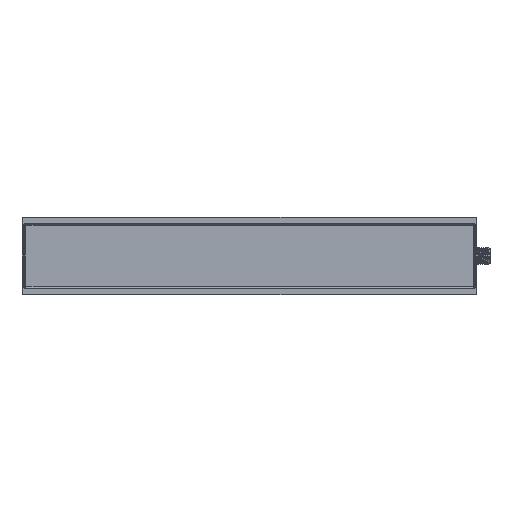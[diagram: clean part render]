
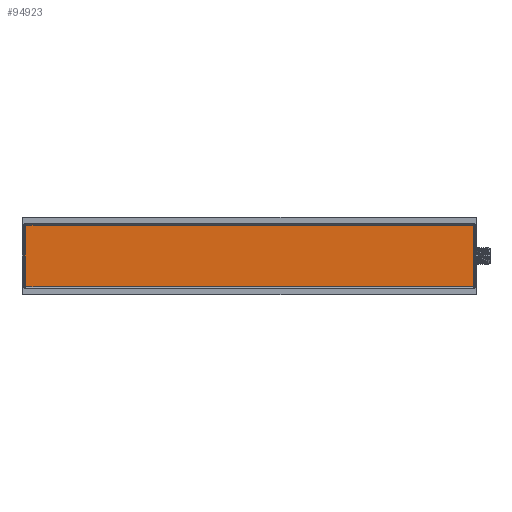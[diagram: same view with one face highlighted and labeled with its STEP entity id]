
A CAD part, top view. The second image highlights one B-rep face of the part: STEP entity #94923.
In plain terms, the highlighted planar face has unit normal (0, 0, 1).
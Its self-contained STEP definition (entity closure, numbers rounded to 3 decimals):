
#569 = VECTOR ( 'NONE', #50784, 1000. ) ;
#1560 = ORIENTED_EDGE ( 'NONE', *, *, #17315, .T. ) ;
#2771 = CARTESIAN_POINT ( 'NONE',  ( -150.155, 19.53, 0. ) ) ;
#3062 = CARTESIAN_POINT ( 'NONE',  ( -149.155, -20.53, 0. ) ) ;
#3372 = CIRCLE ( 'NONE', #79047, 1. ) ;
#4437 = ORIENTED_EDGE ( 'NONE', *, *, #15778, .T. ) ;
#4564 = VERTEX_POINT ( 'NONE', #30523 ) ;
#8193 = AXIS2_PLACEMENT_3D ( 'NONE', #16530, #31643, #33584 ) ;
#8801 = AXIS2_PLACEMENT_3D ( 'NONE', #36539, #44095, #21844 ) ;
#9100 = CARTESIAN_POINT ( 'NONE',  ( 149.155, 19.53, 0. ) ) ;
#9338 = VERTEX_POINT ( 'NONE', #10373 ) ;
#10373 = CARTESIAN_POINT ( 'NONE',  ( 149.155, -20.53, 0. ) ) ;
#11170 = VECTOR ( 'NONE', #13306, 1000. ) ;
#11429 = VECTOR ( 'NONE', #61216, 1000. ) ;
#13306 = DIRECTION ( 'NONE',  ( 0., 1., 0. ) ) ;
#13960 = CARTESIAN_POINT ( 'NONE',  ( 150.155, 19.53, 0. ) ) ;
#15778 = EDGE_CURVE ( 'NONE', #65472, #37655, #22859, .T. ) ;
#16087 = VERTEX_POINT ( 'NONE', #30411 ) ;
#16530 = CARTESIAN_POINT ( 'NONE',  ( -149.155, -19.53, 0. ) ) ;
#17265 = DIRECTION ( 'NONE',  ( 0., 0., -1. ) ) ;
#17315 = EDGE_CURVE ( 'NONE', #48006, #9338, #88898, .T. ) ;
#17514 = VECTOR ( 'NONE', #19834, 1000. ) ;
#19834 = DIRECTION ( 'NONE',  ( 1., 0., 0. ) ) ;
#21844 = DIRECTION ( 'NONE',  ( -1., 0., 0. ) ) ;
#22176 = CARTESIAN_POINT ( 'NONE',  ( -149.155, 19.53, 0. ) ) ;
#22859 = LINE ( 'NONE', #95272, #569 ) ;
#24542 = PLANE ( 'NONE',  #37304 ) ;
#29809 = CARTESIAN_POINT ( 'NONE',  ( -150.155, -19.53, 0. ) ) ;
#30411 = CARTESIAN_POINT ( 'NONE',  ( 149.155, 20.53, 0. ) ) ;
#30523 = CARTESIAN_POINT ( 'NONE',  ( 150.155, 19.53, 0. ) ) ;
#31643 = DIRECTION ( 'NONE',  ( 0., 0., 1. ) ) ;
#32445 = ORIENTED_EDGE ( 'NONE', *, *, #47706, .T. ) ;
#32496 = LINE ( 'NONE', #76156, #11429 ) ;
#33584 = DIRECTION ( 'NONE',  ( 1., 0., 0. ) ) ;
#36539 = CARTESIAN_POINT ( 'NONE',  ( 149.155, 19.53, 0. ) ) ;
#37304 = AXIS2_PLACEMENT_3D ( 'NONE', #9100, #17265, #46151 ) ;
#37655 = VERTEX_POINT ( 'NONE', #29809 ) ;
#39268 = ORIENTED_EDGE ( 'NONE', *, *, #93608, .T. ) ;
#41877 = CARTESIAN_POINT ( 'NONE',  ( 150.155, -19.53, 0. ) ) ;
#43009 = VERTEX_POINT ( 'NONE', #41877 ) ;
#43408 = CARTESIAN_POINT ( 'NONE',  ( -149.155, -20.53, 0. ) ) ;
#44095 = DIRECTION ( 'NONE',  ( 0., 0., 1. ) ) ;
#44240 = CIRCLE ( 'NONE', #8193, 1. ) ;
#44745 = DIRECTION ( 'NONE',  ( 1., 0., 0. ) ) ;
#46151 = DIRECTION ( 'NONE',  ( -1., 0., 0. ) ) ;
#46336 = CIRCLE ( 'NONE', #8801, 1. ) ;
#46454 = FACE_OUTER_BOUND ( 'NONE', #63743, .T. ) ;
#47706 = EDGE_CURVE ( 'NONE', #91488, #65472, #90800, .T. ) ;
#47734 = EDGE_CURVE ( 'NONE', #4564, #16087, #46336, .T. ) ;
#48006 = VERTEX_POINT ( 'NONE', #3062 ) ;
#50784 = DIRECTION ( 'NONE',  ( 0., -1., 0. ) ) ;
#53603 = EDGE_CURVE ( 'NONE', #16087, #91488, #32496, .T. ) ;
#57152 = AXIS2_PLACEMENT_3D ( 'NONE', #22176, #81324, #44745 ) ;
#58485 = ORIENTED_EDGE ( 'NONE', *, *, #47734, .T. ) ;
#61216 = DIRECTION ( 'NONE',  ( -1., 0., 0. ) ) ;
#63743 = EDGE_LOOP ( 'NONE', ( #58485, #77455, #32445, #4437, #65981, #1560, #39268, #80440 ) ) ;
#65472 = VERTEX_POINT ( 'NONE', #2771 ) ;
#65887 = DIRECTION ( 'NONE',  ( 1., 0., 0. ) ) ;
#65981 = ORIENTED_EDGE ( 'NONE', *, *, #66818, .T. ) ;
#66209 = LINE ( 'NONE', #13960, #11170 ) ;
#66818 = EDGE_CURVE ( 'NONE', #37655, #48006, #44240, .T. ) ;
#76156 = CARTESIAN_POINT ( 'NONE',  ( -149.155, 20.53, 0. ) ) ;
#77455 = ORIENTED_EDGE ( 'NONE', *, *, #53603, .T. ) ;
#79047 = AXIS2_PLACEMENT_3D ( 'NONE', #88128, #94699, #65887 ) ;
#79756 = CARTESIAN_POINT ( 'NONE',  ( -149.155, 20.53, 0. ) ) ;
#80440 = ORIENTED_EDGE ( 'NONE', *, *, #95295, .T. ) ;
#81324 = DIRECTION ( 'NONE',  ( 0., 0., 1. ) ) ;
#88128 = CARTESIAN_POINT ( 'NONE',  ( 149.155, -19.53, 0. ) ) ;
#88898 = LINE ( 'NONE', #43408, #17514 ) ;
#90800 = CIRCLE ( 'NONE', #57152, 1. ) ;
#91488 = VERTEX_POINT ( 'NONE', #79756 ) ;
#93608 = EDGE_CURVE ( 'NONE', #9338, #43009, #3372, .T. ) ;
#94699 = DIRECTION ( 'NONE',  ( 0., 0., 1. ) ) ;
#94923 = ADVANCED_FACE ( 'NONE', ( #46454 ), #24542, .F. ) ;
#95272 = CARTESIAN_POINT ( 'NONE',  ( -150.155, 19.53, 0. ) ) ;
#95295 = EDGE_CURVE ( 'NONE', #43009, #4564, #66209, .T. ) ;
